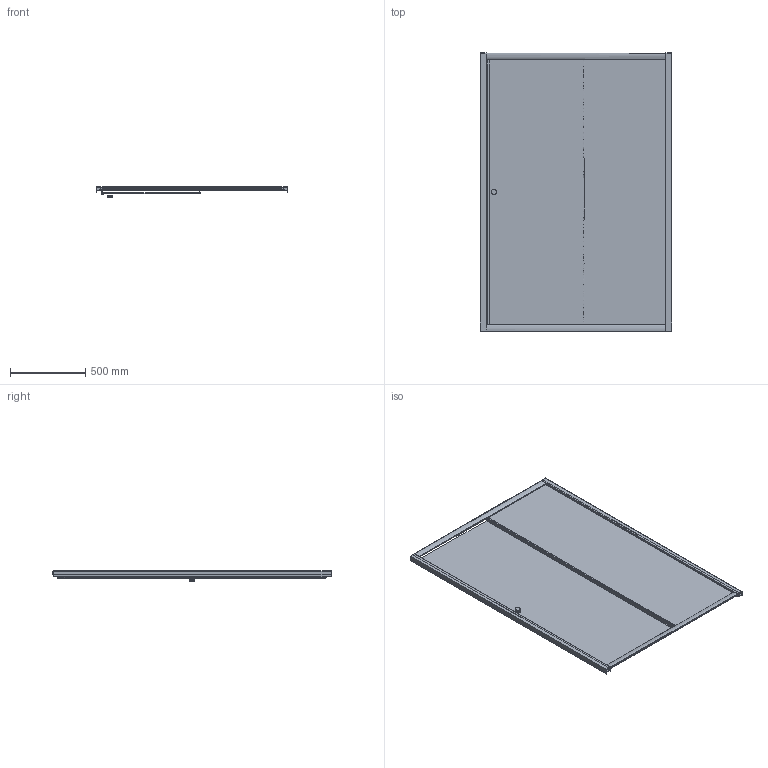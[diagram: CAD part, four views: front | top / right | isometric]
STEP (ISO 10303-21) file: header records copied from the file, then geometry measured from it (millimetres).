
FILE_DESCRIPTION(/* description */ (''),/* implementation_level */ '2;1');
FILE_NAME(/* name */ 'D:\Omnires\Export_Omnires\rys_step\5901867770004_stp.stp',/* time_stamp */ '2020-07-27T14:21:49+02:00',/* author */ (''),/* organization */ (''),/* preprocessor_version */ 'ST-DEVELOPER v18.1',/* originating_system */ 'Autodesk Inventor 2020',/* authorisation */ '');
FILE_SCHEMA (('AUTOMOTIVE_DESIGN { 1 0 10303 214 3 1 1 }'));
Length unit declared in the file: millimetre
Products named in the file (1): 5901867770004_dwg
Bounding box: 1275 x 1851 x 69.45 mm (x, y, z)
Surface area: 7247880 mm2 (no closed solid volume)
Topology: 0 solids, 18 shells, 298 faces, 774 edges, 512 vertices
Faces by surface type: plane 259, cylinder 20, bspline 13, cone 6
Full cylindrical faces by diameter (mm): 17.228 x2, 34.455 x4, 35.891 x2
Entity records: 10071 total; most frequent: CARTESIAN_POINT 2442, ORIENTED_EDGE 1552, DIRECTION 1378, EDGE_CURVE 776, LINE 694, VECTOR 694, VERTEX_POINT 514, AXIS2_PLACEMENT_3D 342
